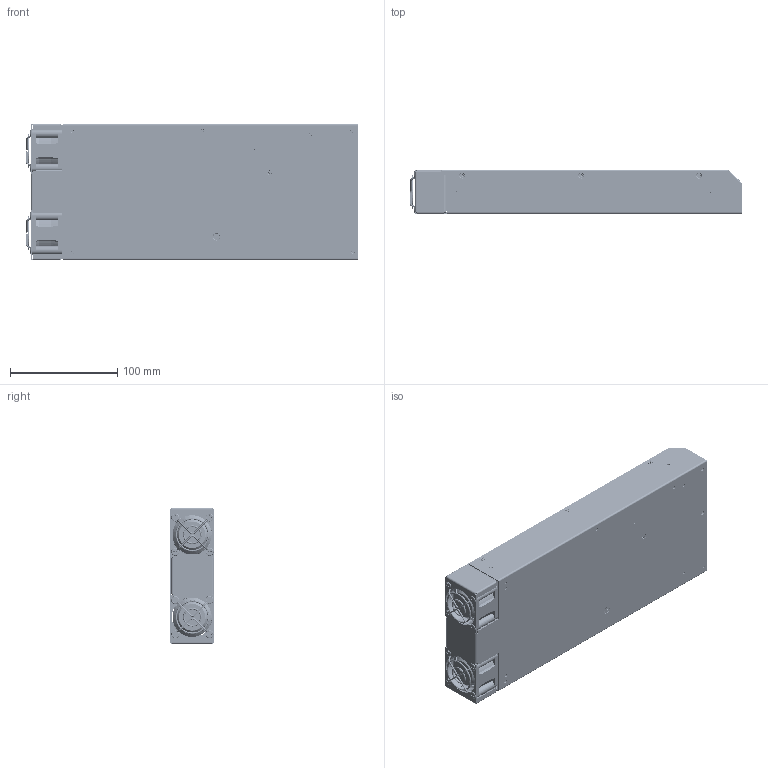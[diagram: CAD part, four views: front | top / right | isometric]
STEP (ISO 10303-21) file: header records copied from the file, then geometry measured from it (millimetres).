
FILE_DESCRIPTION((''),'2;1');
FILE_NAME('EOE15020734_ASM','2022-12-08T10:39:21',('Wuttichai.J'),(''),'CREO PARAMETRIC BY PTC INC, 2020044','CREO PARAMETRIC BY PTC INC, 2020044','');
FILE_SCHEMA(('AUTOMOTIVE_DESIGN { 1 0 10303 214 1 1 1 1 }'));
Products named in the file (145): PEM_SMPS-M3_1_2; INSULATOR_3245569902_02_2_2; 3318604004_EOE15020734; PEM_SO_M3_4_5_1_2; A221_FAN_40X28__2_2; MANIFOLD_SOLID_BREP_21600_2; MANIFOLD_SOLID_BREP_22535_2; MANIFOLD_SOLID_BREP_22672_2; MANIFOLD_SOLID_BREP_23602_2; FANGUARD_1_ASM_2_ASM; 3109023200_AF0_1_1_2; PEM_SO_M2_4-5_2_2; PEM_FEOX_M3_EOE15020734; PEM_SO_M4_EOE15020734; SPONGE_FRONT; SPONGE; 32475849XX; CHASSIS_EOE15020735_P2_ASM_2_AS_ASM; INSULATOR_COVER_EOE15020735_S1_; 3318604102; COVER_EOE15020735_P2_ASM_1_ASM__ASM; CASING_EOE15020735_P2_ASM_1_ASM_ASM; MANIFOLD_SOLID_BREP_275897_2; MANIFOLD_SOLID_BREP_276102_2; 3100300600_2_ASM_2_ASM; 3105130200_2_2; 3105121700_M4SCREW_EOE15020734; EOE15020735_P2_ASM_9_ASM_3_ASM; 3105369100_2; EOE15020735_P2_ASM_20_ASM; PWB_MB_EOE15020734_P1; MB_P2; 3347688701_HS612; HSK_PIN; 242077610935; SCREW_M3_L10; 3244132600; 091103B216; 310300600; NUT_M3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
Assembly tree (339 placements, depth 7):
  EOE15020734_ASM
    EOE15020735_P2_ASM_20_ASM
      EOE15020735_P2_ASM_9_ASM_3_ASM
        CASING_EOE15020735_P2_ASM_1_ASM_ASM
          CHASSIS_EOE15020735_P2_ASM_2_AS_ASM
            PEM_SMPS-M3_1_2  x4
            INSULATOR_3245569902_02_2_2
            3318604004_EOE15020734
            PEM_SO_M3_4_5_1_2  x6
            A221_FAN_40X28__2_2
            FANGUARD_1_ASM_2_ASM  x2
              MANIFOLD_SOLID_BREP_21600_2
              MANIFOLD_SOLID_BREP_22535_2
              MANIFOLD_SOLID_BREP_22672_2
              MANIFOLD_SOLID_BREP_23602_2
            3109023200_AF0_1_1_2  x8
            PEM_SO_M2_4-5_2_2
            PEM_FEOX_M3_EOE15020734  x4
            PEM_SO_M4_EOE15020734
            SPONGE_FRONT
            SPONGE  x2
            32475849XX
          COVER_EOE15020735_P2_ASM_1_ASM__ASM
            INSULATOR_COVER_EOE15020735_S1_
            3318604102
        3100300600_2_ASM_2_ASM  x6
          MANIFOLD_SOLID_BREP_275897_2
          MANIFOLD_SOLID_BREP_276102_2
        3105130200_2_2
        3105121700_M4SCREW_EOE15020734
      3105369100_2  x11
    PWB_EOE15020734_P1_ASM
      PWB_MB_EOE15020734_P1
      MB_P2
      3347688701_HS612_ASM
        3347688701_HS612
        HSK_PIN  x2
        242077610935  x4
        SCREW_M3_L10  x4
        3244132600  x4
        091103B216
        310300600
        NUT_M3  x4
        TAPE_HS612
      3347688801_HS611_ASM
        3347688801_HS611
        HSK_PIN  x2
        242077610935  x2
        201023360508  x2
        3240820400  x2
        SCREW_M3_L10  x2
        3244132600  x2
        091103B216
        3240191000  x2
        NUT_M3  x4
        SCREW_M3_L8  x2
        310300600
      3347688901_HS610_ASM
        3347688901_HS610
        HSK_PIN  x2
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Bounding box: 309.8 x 40.8 x 127 mm (x, y, z)
Volume: 877702.1 mm3; surface area: 1219839.3 mm2
Topology: 328 solids, 373 shells, 14189 faces, 222019 edges, 379584 vertices
Faces by surface type: plane 7068, cylinder 4126, torus 1825, bspline 567, cone 462, sphere 86, extrusion 42, revolution 13
Entity records: 1946318 total; most frequent: CARTESIAN_POINT 549831, PRESENTATION_STYLE_ASSIGNMENT 199317, STYLED_ITEM 198788, CURVE_STYLE 197633, DIRECTION 186856, TRIMMED_CURVE 121280, VECTOR 112571, LINE 112533
